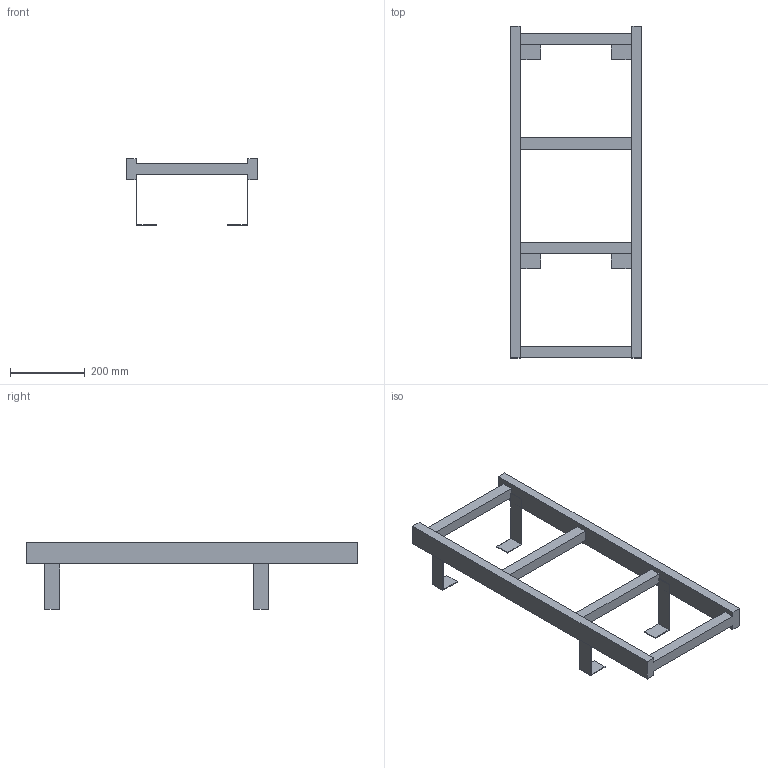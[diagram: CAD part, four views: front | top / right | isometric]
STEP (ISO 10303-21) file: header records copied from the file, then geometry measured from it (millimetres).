
FILE_DESCRIPTION((''),'2;1');
FILE_NAME('017_000109','2017-06-12T',('set'),('HUBER SE'),'PRO/ENGINEER BY PARAMETRIC TECHNOLOGY CORPORATION, 2015280','PRO/ENGINEER BY PARAMETRIC TECHNOLOGY CORPORATION, 2015280','');
FILE_SCHEMA(('CONFIG_CONTROL_DESIGN'));
Length unit declared in the file: millimetre
Products named in the file (1): 017_000109
Bounding box: 350 x 890 x 178.5 mm (x, y, z)
Volume: 3681460 mm3; surface area: 493908 mm2
Topology: 1 solids, 1 shells, 58 faces, 269 edges, 209 vertices
Faces by surface type: plane 58
Entity records: 2546 total; most frequent: CARTESIAN_POINT 581, DIRECTION 348, ORIENTED_EDGE 336, VECTOR 222, LINE 222, EDGE_CURVE 168, VERTEX_POINT 108, COMPOSITE_CURVE_SEGMENT 101
